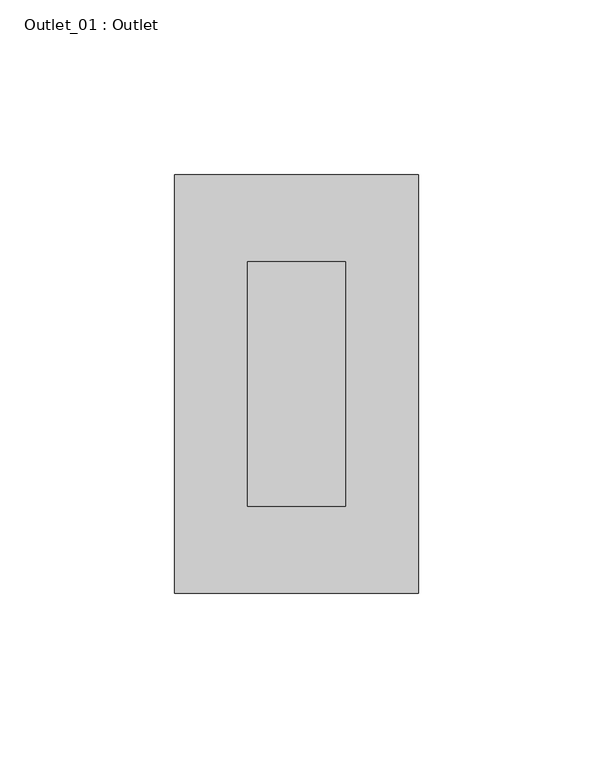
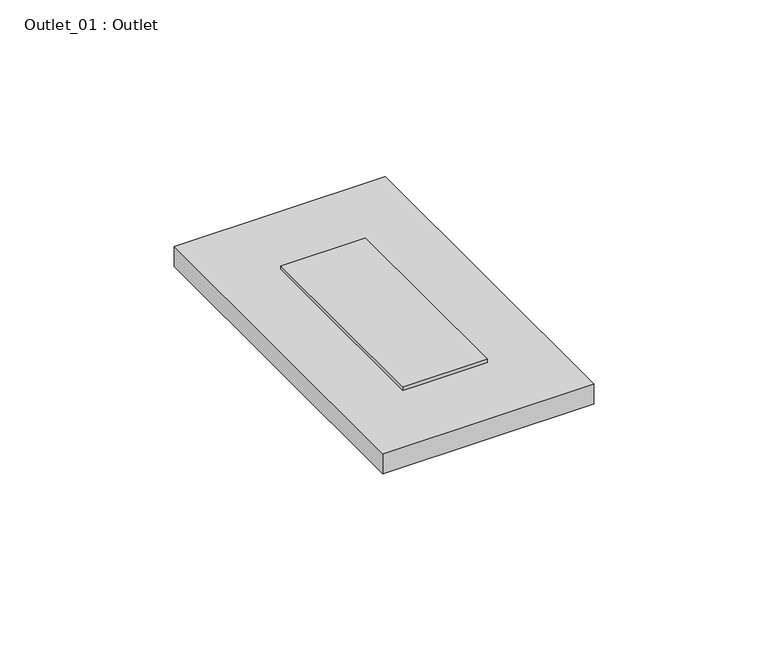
"""IFC4 building model written with IfcOpenShell, lengths in millimetres: switching device geometry, Outlet_01 : Outlet."""

from ifc_helpers import new_model, si_unit, frame, origin, origin_with_axes, place, context, project, spatial, polyline, outline, extrude, source, transform, mapped, element, save


def outlet_01_outlet_443ef776(model_context):
    return source(origin(), model_context, "Body", "SweptSolid", [
        extrude(outline(polyline([(-14.0, 35.0), (14.0, 35.0), (14.0, -35.0), (-14.0, -35.0), (-14.0, 35.0)])), frame((0.0, 0.0, 5.6999725), z_axis=(0.0, 0.0, 1.0), x_axis=(1.0, 0.0, 0.0)), (0.0, 0.0, 1.0), 2.2999722),
        extrude(outline(polyline([(35.0, 60.0), (35.0, -60.0), (-35.0, -60.0), (-35.0, 60.0), (35.0, 60.0)])), origin_with_axes(), (0.0, 0.0, 1.0), 6.9999463),
    ])


if __name__ == "__main__":
    model = new_model("IFC4")
    model_context = context("Model", 3, world=origin())
    ifc_project = project(units=[si_unit("LENGTHUNIT", "METRE", prefix="MILLI")], contexts=[model_context])
    site = spatial("IfcSite", under=ifc_project)
    building = spatial("IfcBuilding", under=site)
    placement = place(None, origin())
    outlet_01_outlet_shape = outlet_01_outlet_443ef776(model_context)
    element("IfcSwitchingDevice", 1, ObjectType="Outlet_01 : Outlet", at=placement, inside=building, context=model_context, shape_type="MappedRepresentation", body=[
        mapped(outlet_01_outlet_shape, transform((0.0, 0.0, 0.0), x_axis=(1.0, 0.0, 0.0), y_axis=(0.0, 1.0, 0.0), z_axis=(0.0, 0.0, 1.0))),
    ])
    save(model, "model.ifc")
